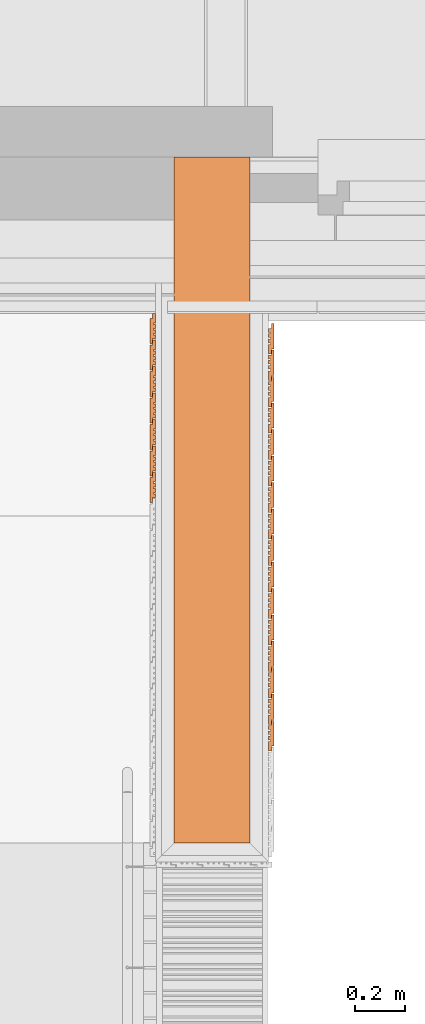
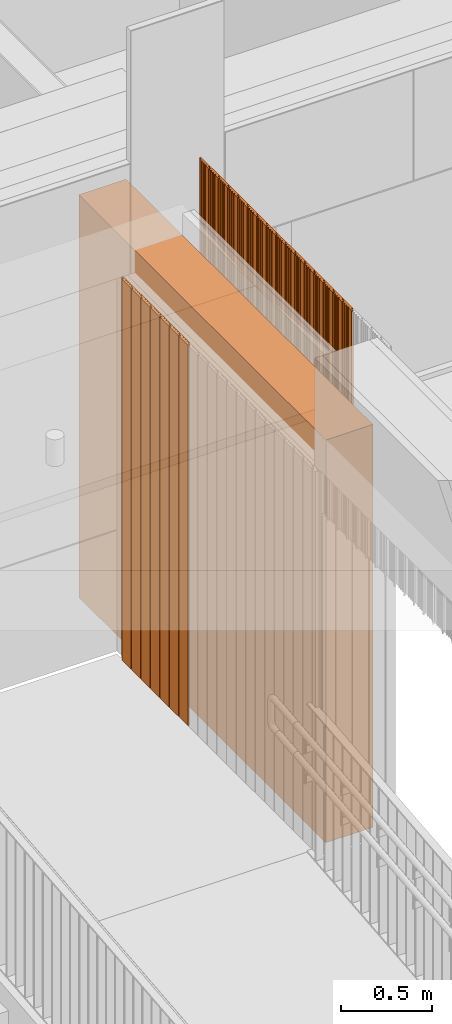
# One storey, part 349 of 418: 24 proxies.
"""IFC2X3 building model written with IfcOpenShell, lengths in millimetres."""

from ifc_helpers import new_model, entity, si_unit, converted_unit, derived_unit, money_unit, direction, frame, origin_with_axes, place, context, subcontext, project, spatial, polyline, outline, extrude, material, type_object, element, save


model = new_model("IFC2X3")

# Units and contexts
model_context = context("Model", 3, precision=0.01, world=origin_with_axes(), true_north=direction((0.0, 1.0)))
body_context = subcontext(model_context, "Body", "Model", "MODEL_VIEW")
ifc_project = project(units=[si_unit("LENGTHUNIT", "METRE", prefix="MILLI"), si_unit("AREAUNIT", "SQUARE_METRE"), si_unit("VOLUMEUNIT", "CUBIC_METRE"), converted_unit("PLANEANGLEUNIT", "DEGREE", entity("IfcPlaneAngleMeasure", 0.0174532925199), si_unit("PLANEANGLEUNIT", "RADIAN"), dimensions=[0, 0, 0, 0, 0, 0, 0]), si_unit("SOLIDANGLEUNIT", "STERADIAN"), money_unit("EUR"), converted_unit("TIMEUNIT", "Year", entity("IfcTimeMeasure", 31556926.0), si_unit("TIMEUNIT", "SECOND"), dimensions=[0, 0, 1, 0, 0, 0, 0]), si_unit("MASSUNIT", "GRAM", prefix="KILO"), si_unit("THERMODYNAMICTEMPERATUREUNIT", "DEGREE_CELSIUS"), si_unit("LUMINOUSINTENSITYUNIT", "LUMEN"), si_unit("ENERGYUNIT", "JOULE", prefix="MEGA"), derived_unit("THERMALCONDUCTANCEUNIT", [(si_unit("POWERUNIT", "WATT"), 1), (si_unit("LENGTHUNIT", "METRE"), -1), (si_unit("THERMODYNAMICTEMPERATUREUNIT", "KELVIN"), -1)]), derived_unit("SPECIFICHEATCAPACITYUNIT", [(si_unit("ENERGYUNIT", "JOULE"), 1), (si_unit("MASSUNIT", "GRAM", prefix="KILO"), -1), (si_unit("THERMODYNAMICTEMPERATUREUNIT", "KELVIN"), -1)]), derived_unit("MASSDENSITYUNIT", [(si_unit("MASSUNIT", "GRAM", prefix="KILO"), 1), (si_unit("VOLUMEUNIT", "CUBIC_METRE"), -1)])], contexts=[model_context])

# Site, building, storey
site_placement = place(None, origin_with_axes())
site = spatial("IfcSite", under=ifc_project, at=site_placement, Name="Paldiski mnt 245/1, Tallinn, Harjumaa", CompositionType="COMPLEX")
building_placement = place(site_placement, origin_with_axes())
building = spatial("IfcBuilding", under=site, at=building_placement, Name="RKAS Hoone üldnimetus (kasutust iseloomustav) -> IFC Project Manager -> SOLIBRI", CompositionType="ELEMENT")
storey_placement = place(building_placement, origin_with_axes())
storey = spatial("IfcBuildingStorey", under=building, at=storey_placement, Name="Esimene korrus", CompositionType="ELEMENT", Elevation=0.0)

# Proxies
ifc_material_1 = material(Name="Olemasolev silikaltsiitplokk")
building_element_proxy_type_1 = type_object("IfcBuildingElementProxyType", Name="Varikatuse_sein_olemasolev_300mm plokk 300", PredefinedType="NOTDEFINED")
proxy_1_placement = place(storey_placement, frame((-38720.0, -12510.0843011, 0.0), z_axis=(0.0, 0.0, 1.0), x_axis=(0.0, -1.0, 0.0)))
element("IfcBuildingElementProxy", 1, at=proxy_1_placement, inside=storey, type_object=building_element_proxy_type_1, material=ifc_material_1, Name="Varikatus", context=body_context, shape_type="SweptSolid", body=[
    extrude(outline(polyline([(0.0, 0.0), (2720.00027631, 0.0), (2720.00027631, 300.0), (0.0, 300.0), (0.0, 0.0)])), origin_with_axes(), (0.0, 0.0, 1.0), 2707.39578152),
])
ifc_material_2 = material(Name="ET-01_Puit - Konstruktsioon")
building_element_proxy_type_2 = type_object("IfcBuildingElementProxyType", Name="ET-01_Puit - Konstruktsioon 3222", PredefinedType="NOTDEFINED")
proxy_2_placement = place(storey_placement, frame((-38334.5000007, -13815.2632272, 3221.56061477), z_axis=(0.0, 0.0, 1.0), x_axis=(1.0, 0.0, 0.0)))
element("IfcBuildingElementProxy", 2, at=proxy_2_placement, inside=storey, type_object=building_element_proxy_type_2, material=ifc_material_2, Name="Varikatus", context=body_context, shape_type="SweptSolid", body=[
    extrude(outline(polyline([(0.0, 0.0), (-3.20746096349e-07, 20.0000005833), (10.500001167, 20.0000004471), (10.5000010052, 120.000000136), (0.500001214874, 120.000000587), (0.500000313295, 100.000001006), (-10.4999994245, 100.000000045), (-10.4999997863, 85.423812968), (-3.50000027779, 85.4238127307), (-3.4999996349, 79.7831443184), (-10.5000001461, 79.7831433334), (-10.4999992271, 64.9546509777), (-3.49999971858, 64.9546507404), (-3.49999928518, 58.8277100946), (-10.4999987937, 58.8277103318), (-10.4999989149, 43.8885931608), (-3.49999940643, 43.8885929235), (-3.49999970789, 37.5260958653), (-10.5000002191, 37.5260948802), (-10.4999992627, 3.55871776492e-07), (0.0, 0.0)])), frame((0.0, 0.0, -3221.56061477), z_axis=(0.0, 0.0, 1.0), x_axis=(1.0, 0.0, 0.0)), (0.0, 0.0, 1.0), 3221.56061477),
])
proxy_3_placement = place(storey_placement, frame((-38334.5000007, -13710.2632272, 3221.56061477), z_axis=(0.0, 0.0, 1.0), x_axis=(1.0, 0.0, 0.0)))
element("IfcBuildingElementProxy", 3, at=proxy_3_placement, inside=storey, type_object=building_element_proxy_type_2, material=ifc_material_2, Name="Varikatus", context=body_context, shape_type="SweptSolid", body=[
    extrude(outline(polyline([(0.0, 0.0), (-3.20746096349e-07, 20.0000005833), (10.500001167, 20.0000004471), (10.5000010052, 120.000000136), (0.500001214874, 120.000000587), (0.500000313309, 100.000001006), (-10.4999994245, 100.000000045), (-10.4999997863, 85.423812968), (-3.50000027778, 85.4238127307), (-3.4999996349, 79.7831443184), (-10.5000001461, 79.7831433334), (-10.4999992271, 64.9546509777), (-3.49999971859, 64.9546507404), (-3.49999928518, 58.8277100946), (-10.4999987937, 58.8277103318), (-10.4999989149, 43.8885931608), (-3.49999940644, 43.8885929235), (-3.49999970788, 37.5260958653), (-10.5000002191, 37.5260948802), (-10.4999992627, 3.55868223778e-07), (0.0, 0.0)])), frame((0.0, 0.0, -3221.56061477), z_axis=(0.0, 0.0, 1.0), x_axis=(1.0, 0.0, 0.0)), (0.0, 0.0, 1.0), 3221.56061477),
])
proxy_4_placement = place(storey_placement, frame((-38334.5000007, -13920.2632272, 3221.56061477), z_axis=(0.0, 0.0, 1.0), x_axis=(1.0, 0.0, 0.0)))
element("IfcBuildingElementProxy", 4, at=proxy_4_placement, inside=storey, type_object=building_element_proxy_type_2, material=ifc_material_2, Name="Varikatus", context=body_context, shape_type="SweptSolid", body=[
    extrude(outline(polyline([(0.0, 0.0), (-3.20760307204e-07, 20.0000005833), (10.500001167, 20.0000004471), (10.5000010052, 120.000000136), (0.500001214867, 120.000000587), (0.500000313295, 100.000001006), (-10.4999994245, 100.000000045), (-10.4999997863, 85.423812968), (-3.50000027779, 85.4238127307), (-3.4999996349, 79.7831443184), (-10.5000001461, 79.7831433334), (-10.4999992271, 64.9546509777), (-3.4999997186, 64.9546507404), (-3.49999928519, 58.8277100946), (-10.4999987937, 58.8277103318), (-10.4999989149, 43.8885931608), (-3.49999940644, 43.8885929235), (-3.49999970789, 37.5260958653), (-10.5000002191, 37.5260948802), (-10.4999992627, 3.55870000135e-07), (0.0, 0.0)])), frame((0.0, 0.0, -3221.56061477), z_axis=(0.0, 0.0, 1.0), x_axis=(1.0, 0.0, 0.0)), (0.0, 0.0, 1.0), 3221.56061477),
])
proxy_5_placement = place(storey_placement, frame((-38334.5000007, -14025.2632272, 3221.56061477), z_axis=(0.0, 0.0, 1.0), x_axis=(1.0, 0.0, 0.0)))
element("IfcBuildingElementProxy", 5, at=proxy_5_placement, inside=storey, type_object=building_element_proxy_type_2, material=ifc_material_2, Name="Varikatus", context=body_context, shape_type="SweptSolid", body=[
    extrude(outline(polyline([(0.0, 0.0), (-3.20753201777e-07, 20.0000005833), (10.500001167, 20.0000004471), (10.5000010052, 120.000000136), (0.500001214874, 120.000000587), (0.500000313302, 100.000001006), (-10.4999994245, 100.000000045), (-10.4999997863, 85.423812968), (-3.50000027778, 85.4238127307), (-3.4999996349, 79.7831443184), (-10.5000001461, 79.7831433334), (-10.4999992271, 64.9546509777), (-3.49999971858, 64.9546507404), (-3.49999928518, 58.8277100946), (-10.4999987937, 58.8277103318), (-10.4999989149, 43.8885931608), (-3.49999940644, 43.8885929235), (-3.49999970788, 37.5260958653), (-10.5000002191, 37.5260948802), (-10.4999992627, 3.55870000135e-07), (0.0, 0.0)])), frame((0.0, 0.0, -3221.56061477), z_axis=(0.0, 0.0, 1.0), x_axis=(1.0, 0.0, 0.0)), (0.0, 0.0, 1.0), 3221.56061477),
])
proxy_6_placement = place(storey_placement, frame((-38334.5000007, -14130.2632272, 3221.56061477), z_axis=(0.0, 0.0, 1.0), x_axis=(1.0, 0.0, 0.0)))
element("IfcBuildingElementProxy", 6, at=proxy_6_placement, inside=storey, type_object=building_element_proxy_type_2, material=ifc_material_2, Name="Varikatus", context=body_context, shape_type="SweptSolid", body=[
    extrude(outline(polyline([(0.0, 0.0), (-3.20753201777e-07, 20.0000005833), (10.500001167, 20.0000004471), (10.5000010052, 120.000000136), (0.500001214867, 120.000000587), (0.500000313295, 100.000001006), (-10.4999994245, 100.000000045), (-10.4999997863, 85.423812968), (-3.5000002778, 85.4238127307), (-3.4999996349, 79.7831443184), (-10.5000001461, 79.7831433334), (-10.4999992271, 64.9546509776), (-3.49999971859, 64.9546507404), (-3.49999928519, 58.8277100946), (-10.4999987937, 58.8277103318), (-10.4999989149, 43.8885931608), (-3.49999940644, 43.8885929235), (-3.49999970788, 37.5260958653), (-10.5000002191, 37.5260948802), (-10.4999992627, 3.55866447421e-07), (0.0, 0.0)])), frame((0.0, 0.0, -3221.56061477), z_axis=(0.0, 0.0, 1.0), x_axis=(1.0, 0.0, 0.0)), (0.0, 0.0, 1.0), 3221.56061477),
])
proxy_7_placement = place(storey_placement, frame((-38334.5000007, -14235.2632272, 3221.56061477), z_axis=(0.0, 0.0, 1.0), x_axis=(1.0, 0.0, 0.0)))
element("IfcBuildingElementProxy", 7, at=proxy_7_placement, inside=storey, type_object=building_element_proxy_type_2, material=ifc_material_2, Name="Varikatus", context=body_context, shape_type="SweptSolid", body=[
    extrude(outline(polyline([(0.0, 0.0), (-3.20753201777e-07, 20.0000005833), (10.500001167, 20.0000004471), (10.5000010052, 120.000000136), (0.500001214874, 120.000000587), (0.500000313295, 100.000001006), (-10.4999994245, 100.000000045), (-10.4999997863, 85.423812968), (-3.50000027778, 85.4238127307), (-3.49999963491, 79.7831443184), (-10.5000001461, 79.7831433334), (-10.4999992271, 64.9546509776), (-3.49999971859, 64.9546507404), (-3.49999928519, 58.8277100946), (-10.4999987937, 58.8277103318), (-10.4999989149, 43.8885931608), (-3.49999940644, 43.8885929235), (-3.49999970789, 37.5260958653), (-10.5000002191, 37.5260948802), (-10.4999992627, 3.55864671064e-07), (0.0, 0.0)])), frame((0.0, 0.0, -3221.56061477), z_axis=(0.0, 0.0, 1.0), x_axis=(1.0, 0.0, 0.0)), (0.0, 0.0, 1.0), 3221.56061477),
])
proxy_8_placement = place(storey_placement, frame((-38334.5000007, -14340.2632272, 3221.56061477), z_axis=(0.0, 0.0, 1.0), x_axis=(1.0, 0.0, 0.0)))
element("IfcBuildingElementProxy", 8, at=proxy_8_placement, inside=storey, type_object=building_element_proxy_type_2, material=ifc_material_2, Name="Varikatus", context=body_context, shape_type="SweptSolid", body=[
    extrude(outline(polyline([(0.0, 0.0), (-3.20760307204e-07, 20.0000005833), (10.500001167, 20.0000004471), (10.5000010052, 120.000000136), (0.500001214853, 120.000000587), (0.500000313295, 100.000001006), (-10.4999994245, 100.000000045), (-10.4999997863, 85.423812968), (-3.5000002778, 85.4238127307), (-3.49999963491, 79.7831443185), (-10.5000001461, 79.7831433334), (-10.4999992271, 64.9546509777), (-3.49999971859, 64.9546507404), (-3.4999992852, 58.8277100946), (-10.4999987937, 58.8277103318), (-10.4999989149, 43.8885931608), (-3.49999940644, 43.8885929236), (-3.4999997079, 37.5260958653), (-10.5000002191, 37.5260948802), (-10.4999992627, 3.55877105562e-07), (0.0, 0.0)])), frame((0.0, 0.0, -3221.56061477), z_axis=(0.0, 0.0, 1.0), x_axis=(1.0, 0.0, 0.0)), (0.0, 0.0, 1.0), 3221.56061477),
])
proxy_9_placement = place(storey_placement, frame((-38334.5000007, -14445.2632272, 3221.56061477), z_axis=(0.0, 0.0, 1.0), x_axis=(1.0, 0.0, 0.0)))
element("IfcBuildingElementProxy", 9, at=proxy_9_placement, inside=storey, type_object=building_element_proxy_type_2, material=ifc_material_2, Name="Varikatus", context=body_context, shape_type="SweptSolid", body=[
    extrude(outline(polyline([(0.0, 0.0), (-3.20753201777e-07, 20.0000005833), (10.500001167, 20.0000004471), (10.5000010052, 120.000000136), (0.50000121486, 120.000000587), (0.500000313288, 100.000001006), (-10.4999994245, 100.000000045), (-10.4999997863, 85.423812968), (-3.5000002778, 85.4238127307), (-3.4999996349, 79.7831443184), (-10.5000001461, 79.7831433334), (-10.4999992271, 64.9546509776), (-3.49999971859, 64.9546507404), (-3.49999928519, 58.8277100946), (-10.4999987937, 58.8277103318), (-10.4999989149, 43.8885931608), (-3.49999940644, 43.8885929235), (-3.4999997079, 37.5260958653), (-10.5000002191, 37.5260948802), (-10.4999992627, 3.55864671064e-07), (0.0, 0.0)])), frame((0.0, 0.0, -3221.56061477), z_axis=(0.0, 0.0, 1.0), x_axis=(1.0, 0.0, 0.0)), (0.0, 0.0, 1.0), 3221.56061477),
])
proxy_10_placement = place(storey_placement, frame((-38334.5000007, -14550.2632272, 3221.56061477), z_axis=(0.0, 0.0, 1.0), x_axis=(1.0, 0.0, 0.0)))
element("IfcBuildingElementProxy", 10, at=proxy_10_placement, inside=storey, type_object=building_element_proxy_type_2, material=ifc_material_2, Name="Varikatus", context=body_context, shape_type="SweptSolid", body=[
    extrude(outline(polyline([(0.0, 0.0), (-3.20753201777e-07, 20.0000005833), (10.500001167, 20.0000004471), (10.5000010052, 120.000000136), (0.500001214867, 120.000000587), (0.500000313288, 100.000001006), (-10.4999994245, 100.000000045), (-10.4999997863, 85.423812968), (-3.50000027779, 85.4238127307), (-3.4999996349, 79.7831443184), (-10.5000001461, 79.7831433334), (-10.4999992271, 64.9546509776), (-3.49999971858, 64.9546507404), (-3.49999928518, 58.8277100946), (-10.4999987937, 58.8277103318), (-10.4999989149, 43.8885931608), (-3.49999940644, 43.8885929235), (-3.49999970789, 37.5260958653), (-10.5000002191, 37.5260948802), (-10.4999992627, 3.55862894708e-07), (0.0, 0.0)])), frame((0.0, 0.0, -3221.56061477), z_axis=(0.0, 0.0, 1.0), x_axis=(1.0, 0.0, 0.0)), (0.0, 0.0, 1.0), 3221.56061477),
])
proxy_11_placement = place(storey_placement, frame((-38334.5000007, -14655.2632272, 3221.56061477), z_axis=(0.0, 0.0, 1.0), x_axis=(1.0, 0.0, 0.0)))
element("IfcBuildingElementProxy", 11, at=proxy_11_placement, inside=storey, type_object=building_element_proxy_type_2, material=ifc_material_2, Name="Varikatus", context=body_context, shape_type="SweptSolid", body=[
    extrude(outline(polyline([(0.0, 0.0), (-3.20753201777e-07, 20.0000005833), (10.500001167, 20.0000004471), (10.5000010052, 120.000000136), (0.500001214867, 120.000000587), (0.500000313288, 100.000001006), (-10.4999994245, 100.000000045), (-10.4999997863, 85.423812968), (-3.50000027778, 85.4238127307), (-3.4999996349, 79.7831443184), (-10.5000001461, 79.7831433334), (-10.4999992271, 64.9546509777), (-3.49999971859, 64.9546507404), (-3.49999928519, 58.8277100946), (-10.4999987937, 58.8277103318), (-10.4999989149, 43.8885931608), (-3.49999940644, 43.8885929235), (-3.49999970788, 37.5260958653), (-10.5000002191, 37.5260948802), (-10.4999992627, 3.55871776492e-07), (0.0, 0.0)])), frame((0.0, 0.0, -3221.56061477), z_axis=(0.0, 0.0, 1.0), x_axis=(1.0, 0.0, 0.0)), (0.0, 0.0, 1.0), 3221.56061477),
])
proxy_12_placement = place(storey_placement, frame((-38334.5000007, -14760.2632272, 3221.56061477), z_axis=(0.0, 0.0, 1.0), x_axis=(1.0, 0.0, 0.0)))
element("IfcBuildingElementProxy", 12, at=proxy_12_placement, inside=storey, type_object=building_element_proxy_type_2, material=ifc_material_2, Name="Varikatus", context=body_context, shape_type="SweptSolid", body=[
    extrude(outline(polyline([(0.0, 0.0), (-3.20760307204e-07, 20.0000005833), (10.500001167, 20.0000004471), (10.5000010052, 120.000000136), (0.50000121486, 120.000000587), (0.500000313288, 100.000001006), (-10.4999994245, 100.000000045), (-10.4999997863, 85.423812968), (-3.5000002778, 85.4238127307), (-3.49999963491, 79.7831443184), (-10.5000001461, 79.7831433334), (-10.4999992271, 64.9546509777), (-3.4999997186, 64.9546507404), (-3.4999992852, 58.8277100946), (-10.4999987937, 58.8277103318), (-10.4999989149, 43.8885931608), (-3.49999940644, 43.8885929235), (-3.4999997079, 37.5260958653), (-10.5000002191, 37.5260948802), (-10.4999992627, 3.55870000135e-07), (0.0, 0.0)])), frame((0.0, 0.0, -3221.56061477), z_axis=(0.0, 0.0, 1.0), x_axis=(1.0, 0.0, 0.0)), (0.0, 0.0, 1.0), 3221.56061477),
])
proxy_13_placement = place(storey_placement, frame((-38334.5000007, -14865.2632272, 3221.56061477), z_axis=(0.0, 0.0, 1.0), x_axis=(1.0, 0.0, 0.0)))
element("IfcBuildingElementProxy", 13, at=proxy_13_placement, inside=storey, type_object=building_element_proxy_type_2, material=ifc_material_2, Name="Varikatus", context=body_context, shape_type="SweptSolid", body=[
    extrude(outline(polyline([(0.0, 0.0), (-3.20760307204e-07, 20.0000005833), (10.500001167, 20.0000004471), (10.5000010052, 120.000000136), (0.50000121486, 120.000000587), (0.500000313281, 100.000001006), (-10.4999994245, 100.000000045), (-10.4999997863, 85.423812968), (-3.5000002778, 85.4238127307), (-3.49999963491, 79.7831443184), (-10.5000001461, 79.7831433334), (-10.4999992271, 64.9546509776), (-3.4999997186, 64.9546507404), (-3.4999992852, 58.8277100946), (-10.4999987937, 58.8277103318), (-10.4999989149, 43.8885931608), (-3.49999940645, 43.8885929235), (-3.49999970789, 37.5260958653), (-10.5000002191, 37.5260948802), (-10.4999992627, 3.55868223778e-07), (0.0, 0.0)])), frame((0.0, 0.0, -3221.56061477), z_axis=(0.0, 0.0, 1.0), x_axis=(1.0, 0.0, 0.0)), (0.0, 0.0, 1.0), 3221.56061477),
])
proxy_14_placement = place(storey_placement, frame((-38334.5000007, -13500.2632272, 3221.56061477), z_axis=(0.0, 0.0, 1.0), x_axis=(1.0, 0.0, 0.0)))
element("IfcBuildingElementProxy", 14, at=proxy_14_placement, inside=storey, type_object=building_element_proxy_type_2, material=ifc_material_2, Name="Varikatus", context=body_context, shape_type="SweptSolid", body=[
    extrude(outline(polyline([(0.0, 0.0), (-3.20746096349e-07, 20.0000005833), (10.500001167, 20.0000004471), (10.5000010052, 120.000000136), (0.500001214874, 120.000000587), (0.500000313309, 100.000001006), (-10.4999994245, 100.000000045), (-10.4999997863, 85.423812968), (-3.50000027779, 85.4238127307), (-3.4999996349, 79.7831443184), (-10.5000001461, 79.7831433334), (-10.4999992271, 64.9546509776), (-3.49999971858, 64.9546507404), (-3.49999928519, 58.8277100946), (-10.4999987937, 58.8277103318), (-10.4999989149, 43.8885931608), (-3.49999940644, 43.8885929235), (-3.49999970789, 37.5260958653), (-10.5000002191, 37.5260948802), (-10.4999992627, 3.55871776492e-07), (0.0, 0.0)])), frame((0.0, 0.0, -3221.56061477), z_axis=(0.0, 0.0, 1.0), x_axis=(1.0, 0.0, 0.0)), (0.0, 0.0, 1.0), 3221.56061477),
])
proxy_15_placement = place(storey_placement, frame((-38334.5000007, -13605.2632272, 3221.56061477), z_axis=(0.0, 0.0, 1.0), x_axis=(1.0, 0.0, 0.0)))
element("IfcBuildingElementProxy", 15, at=proxy_15_placement, inside=storey, type_object=building_element_proxy_type_2, material=ifc_material_2, Name="Varikatus", context=body_context, shape_type="SweptSolid", body=[
    extrude(outline(polyline([(0.0, 0.0), (-3.20753201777e-07, 20.0000005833), (10.500001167, 20.0000004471), (10.5000010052, 120.000000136), (0.500001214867, 120.000000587), (0.500000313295, 100.000001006), (-10.4999994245, 100.000000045), (-10.4999997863, 85.423812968), (-3.5000002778, 85.4238127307), (-3.4999996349, 79.7831443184), (-10.5000001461, 79.7831433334), (-10.4999992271, 64.9546509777), (-3.49999971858, 64.9546507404), (-3.49999928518, 58.8277100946), (-10.4999987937, 58.8277103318), (-10.4999989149, 43.8885931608), (-3.49999940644, 43.8885929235), (-3.49999970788, 37.5260958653), (-10.5000002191, 37.5260948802), (-10.4999992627, 3.55875329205e-07), (0.0, 0.0)])), frame((0.0, 0.0, -3221.56061477), z_axis=(0.0, 0.0, 1.0), x_axis=(1.0, 0.0, 0.0)), (0.0, 0.0, 1.0), 3221.56061477),
])
proxy_16_placement = place(storey_placement, frame((-38334.5000007, -13395.2632272, 3221.56061477), z_axis=(0.0, 0.0, 1.0), x_axis=(1.0, 0.0, 0.0)))
element("IfcBuildingElementProxy", 16, at=proxy_16_placement, inside=storey, type_object=building_element_proxy_type_2, material=ifc_material_2, Name="Varikatus", context=body_context, shape_type="SweptSolid", body=[
    extrude(outline(polyline([(0.0, 0.0), (-3.20753201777e-07, 20.0000005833), (10.500001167, 20.0000004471), (10.5000010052, 120.000000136), (0.500001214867, 120.000000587), (0.500000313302, 100.000001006), (-10.4999994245, 100.000000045), (-10.4999997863, 85.423812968), (-3.50000027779, 85.4238127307), (-3.4999996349, 79.7831443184), (-10.5000001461, 79.7831433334), (-10.4999992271, 64.9546509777), (-3.49999971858, 64.9546507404), (-3.4999992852, 58.8277100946), (-10.4999987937, 58.8277103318), (-10.4999989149, 43.8885931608), (-3.49999940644, 43.8885929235), (-3.49999970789, 37.5260958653), (-10.5000002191, 37.5260948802), (-10.4999992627, 3.55875329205e-07), (0.0, 0.0)])), frame((0.0, 0.0, -3221.56061477), z_axis=(0.0, 0.0, 1.0), x_axis=(1.0, 0.0, 0.0)), (0.0, 0.0, 1.0), 3221.56061477),
])
proxy_17_placement = place(storey_placement, frame((-38334.5000007, -13290.2632272, 3221.56061477), z_axis=(0.0, 0.0, 1.0), x_axis=(1.0, 0.0, 0.0)))
element("IfcBuildingElementProxy", 17, at=proxy_17_placement, inside=storey, type_object=building_element_proxy_type_2, material=ifc_material_2, Name="Varikatus", context=body_context, shape_type="SweptSolid", body=[
    extrude(outline(polyline([(0.0, 0.0), (-3.20746096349e-07, 20.0000005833), (10.500001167, 20.0000004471), (10.5000010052, 120.000000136), (0.500001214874, 120.000000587), (0.500000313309, 100.000001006), (-10.4999994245, 100.000000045), (-10.4999997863, 85.423812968), (-3.50000027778, 85.4238127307), (-3.49999963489, 79.7831443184), (-10.5000001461, 79.7831433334), (-10.4999992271, 64.9546509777), (-3.49999971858, 64.9546507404), (-3.49999928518, 58.8277100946), (-10.4999987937, 58.8277103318), (-10.4999989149, 43.8885931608), (-3.49999940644, 43.8885929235), (-3.49999970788, 37.5260958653), (-10.500000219, 37.5260948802), (-10.4999992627, 3.55871776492e-07), (0.0, 0.0)])), frame((0.0, 0.0, -3221.56061477), z_axis=(0.0, 0.0, 1.0), x_axis=(1.0, 0.0, 0.0)), (0.0, 0.0, 1.0), 3221.56061477),
])
building_element_proxy_type_3 = type_object("IfcBuildingElementProxyType", Name="ET-01_Puit - Konstruktsioon 2560", PredefinedType="NOTDEFINED")
for number, where, z_axis, x_axis in (
    (18, (-38805.4999993, -13130.0843007, 2560.10177239), (0.0, 0.0, 1.0), (1.0, 0.0, 0.0)),
    (19, (-38805.4999993, -13235.0843007, 2560.10177239), (0.0, 0.0, 1.0), (1.0, 0.0, 0.0)),
):
    element("IfcBuildingElementProxy", number, at=place(storey_placement, frame(where, z_axis=z_axis, x_axis=x_axis)), inside=storey, type_object=building_element_proxy_type_3, material=ifc_material_2, Name="Varikatus", context=body_context, shape_type="SweptSolid", body=[
        extrude(outline(polyline([(0.0, 0.0), (3.20753201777e-07, -20.0000005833), (-10.500001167, -20.0000004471), (-10.5000010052, -120.000000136), (-0.500001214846, -120.000000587), (-0.500000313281, -100.000001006), (10.4999994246, -100.000000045), (10.4999997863, -85.423812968), (3.5000002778, -85.4238127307), (3.49999963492, -79.7831443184), (10.5000001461, -79.7831433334), (10.4999992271, -64.9546509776), (3.4999997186, -64.9546507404), (3.4999992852, -58.8277100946), (10.4999987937, -58.8277103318), (10.4999989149, -43.8885931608), (3.49999940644, -43.8885929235), (3.4999997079, -37.5260958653), (10.5000002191, -37.5260948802), (10.4999992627, -3.55864671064e-07), (0.0, 0.0)])), frame((0.0, 0.0, -2560.10177239), z_axis=(0.0, 0.0, 1.0), x_axis=(1.0, 0.0, 0.0)), (0.0, 0.0, 1.0), 2560.10177239),
    ])
proxy_18_placement = place(storey_placement, frame((-38805.4999993, -13340.0843007, 2560.10177239), z_axis=(0.0, 0.0, 1.0), x_axis=(1.0, 0.0, 0.0)))
element("IfcBuildingElementProxy", 20, at=proxy_18_placement, inside=storey, type_object=building_element_proxy_type_3, material=ifc_material_2, Name="Varikatus", context=body_context, shape_type="SweptSolid", body=[
    extrude(outline(polyline([(0.0, 0.0), (3.20753201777e-07, -20.0000005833), (-10.500001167, -20.0000004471), (-10.5000010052, -120.000000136), (-0.500001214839, -120.000000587), (-0.500000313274, -100.000001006), (10.4999994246, -100.000000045), (10.4999997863, -85.423812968), (3.50000027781, -85.4238127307), (3.49999963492, -79.7831443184), (10.5000001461, -79.7831433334), (10.4999992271, -64.9546509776), (3.49999971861, -64.9546507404), (3.4999992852, -58.8277100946), (10.4999987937, -58.8277103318), (10.4999989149, -43.8885931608), (3.49999940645, -43.8885929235), (3.4999997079, -37.5260958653), (10.5000002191, -37.5260948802), (10.4999992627, -3.55862894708e-07), (0.0, 0.0)])), frame((0.0, 0.0, -2560.10177239), z_axis=(0.0, 0.0, 1.0), x_axis=(1.0, 0.0, 0.0)), (0.0, 0.0, 1.0), 2560.10177239),
])
proxy_19_placement = place(storey_placement, frame((-38805.4999993, -13445.0843007, 2560.10177239), z_axis=(0.0, 0.0, 1.0), x_axis=(1.0, 0.0, 0.0)))
element("IfcBuildingElementProxy", 21, at=proxy_19_placement, inside=storey, type_object=building_element_proxy_type_3, material=ifc_material_2, Name="Varikatus", context=body_context, shape_type="SweptSolid", body=[
    extrude(outline(polyline([(0.0, 0.0), (3.20746096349e-07, -20.0000005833), (-10.500001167, -20.0000004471), (-10.5000010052, -120.000000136), (-0.500001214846, -120.000000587), (-0.500000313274, -100.000001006), (10.4999994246, -100.000000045), (10.4999997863, -85.423812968), (3.5000002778, -85.4238127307), (3.49999963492, -79.7831443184), (10.5000001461, -79.7831433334), (10.4999992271, -64.9546509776), (3.49999971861, -64.9546507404), (3.4999992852, -58.8277100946), (10.4999987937, -58.8277103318), (10.4999989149, -43.8885931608), (3.49999940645, -43.8885929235), (3.49999970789, -37.5260958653), (10.5000002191, -37.5260948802), (10.4999992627, -3.55864671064e-07), (0.0, 0.0)])), frame((0.0, 0.0, -2560.10177239), z_axis=(0.0, 0.0, 1.0), x_axis=(1.0, 0.0, 0.0)), (0.0, 0.0, 1.0), 2560.10177239),
])
for number, where, z_axis, x_axis in (
    (22, (-38805.4999993, -13550.0843007, 2560.10177239), (0.0, 0.0, 1.0), (1.0, 0.0, 0.0)),
    (23, (-38805.4999993, -13655.0843007, 2560.10177239), (0.0, 0.0, 1.0), (1.0, 0.0, 0.0)),
):
    element("IfcBuildingElementProxy", number, at=place(storey_placement, frame(where, z_axis=z_axis, x_axis=x_axis)), inside=storey, type_object=building_element_proxy_type_3, material=ifc_material_2, Name="Varikatus", context=body_context, shape_type="SweptSolid", body=[
        extrude(outline(polyline([(0.0, 0.0), (3.20753201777e-07, -20.0000005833), (-10.500001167, -20.0000004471), (-10.5000010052, -120.000000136), (-0.500001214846, -120.000000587), (-0.500000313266, -100.000001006), (10.4999994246, -100.000000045), (10.4999997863, -85.423812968), (3.50000027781, -85.4238127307), (3.49999963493, -79.7831443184), (10.5000001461, -79.7831433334), (10.4999992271, -64.9546509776), (3.49999971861, -64.9546507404), (3.4999992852, -58.8277100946), (10.4999987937, -58.8277103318), (10.4999989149, -43.8885931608), (3.49999940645, -43.8885929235), (3.4999997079, -37.5260958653), (10.5000002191, -37.5260948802), (10.4999992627, -3.55864671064e-07), (0.0, 0.0)])), frame((0.0, 0.0, -2560.10177239), z_axis=(0.0, 0.0, 1.0), x_axis=(1.0, 0.0, 0.0)), (0.0, 0.0, 1.0), 2560.10177239),
    ])
proxy_20_placement = place(storey_placement, frame((-38805.4999993, -13760.0843007, 2560.10177239), z_axis=(0.0, 0.0, 1.0), x_axis=(1.0, 0.0, 0.0)))
element("IfcBuildingElementProxy", 24, at=proxy_20_placement, inside=storey, type_object=building_element_proxy_type_3, material=ifc_material_2, Name="Varikatus", context=body_context, shape_type="SweptSolid", body=[
    extrude(outline(polyline([(0.0, 0.0), (3.20753201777e-07, -20.0000005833), (-10.500001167, -20.0000004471), (-10.5000010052, -120.000000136), (-0.500001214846, -120.000000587), (-0.500000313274, -100.000001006), (10.4999994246, -100.000000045), (10.4999997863, -85.423812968), (3.50000027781, -85.4238127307), (3.49999963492, -79.7831443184), (10.5000001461, -79.7831433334), (10.4999992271, -64.9546509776), (3.4999997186, -64.9546507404), (3.4999992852, -58.8277100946), (10.4999987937, -58.8277103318), (10.4999989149, -43.8885931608), (3.49999940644, -43.8885929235), (3.4999997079, -37.5260958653), (10.5000002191, -37.5260948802), (10.4999992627, -3.55864671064e-07), (0.0, 0.0)])), frame((0.0, 0.0, -2560.10177239), z_axis=(0.0, 0.0, 1.0), x_axis=(1.0, 0.0, 0.0)), (0.0, 0.0, 1.0), 2560.10177239),
])

save(model, "model.ifc")
